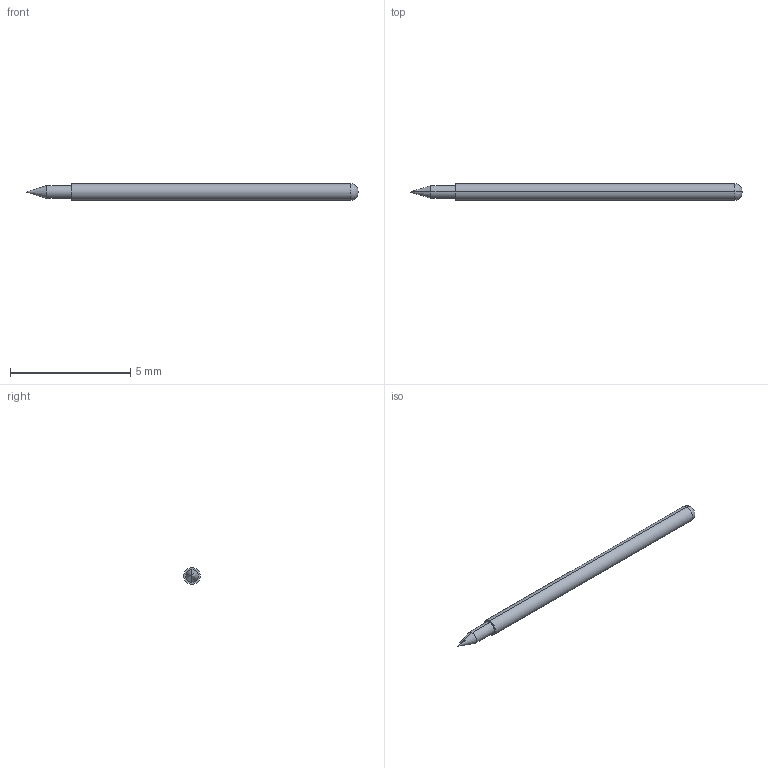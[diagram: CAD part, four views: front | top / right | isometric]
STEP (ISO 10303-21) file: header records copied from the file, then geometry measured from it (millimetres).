
FILE_DESCRIPTION (( 'STEP AP203' ), '1' );
FILE_NAME ('IP068B-2C.STEP', '2014-08-20T07:13:50', ( '' ), ( '' ), 'SwSTEP 2.0', 'SolidWorks 2011', '' );
FILE_SCHEMA (( 'CONFIG_CONTROL_DESIGN' ));
Length unit declared in the file: millimetre
Products named in the file (1): IP068B-2C
Bounding box: 13.8 x 0.68 x 0.68 mm (x, y, z)
Volume: 4.6 mm3; surface area: 28.1 mm2
Topology: 1 solids, 1 shells, 10 faces, 20 edges, 11 vertices
Faces by surface type: cylinder 4, cone 2, torus 2, plane 2
Entity records: 327 total; most frequent: DIRECTION 52, CARTESIAN_POINT 40, ORIENTED_EDGE 36, AXIS2_PLACEMENT_3D 23, EDGE_CURVE 18, CIRCLE 12, EDGE_LOOP 11, VERTEX_POINT 11
